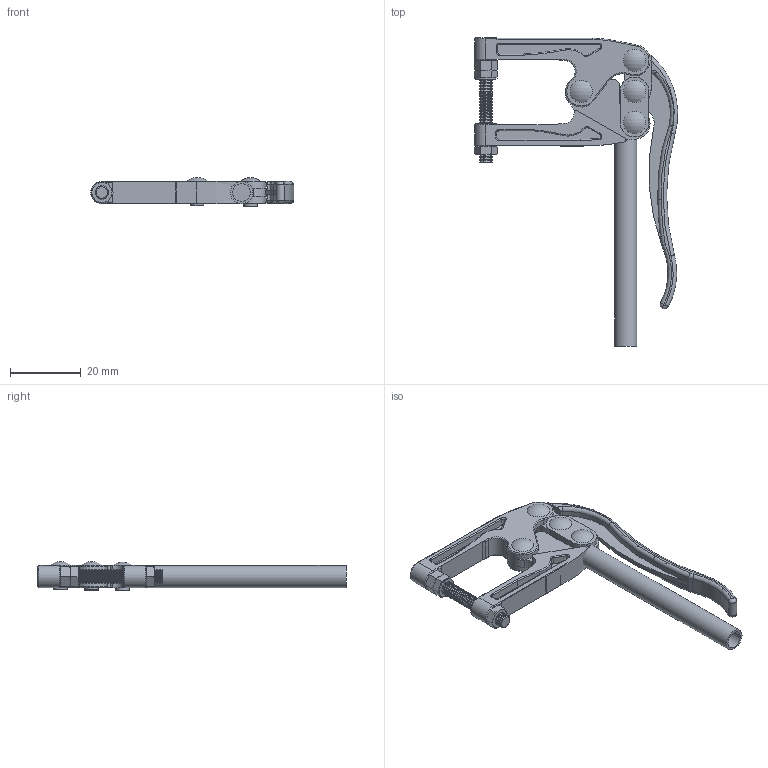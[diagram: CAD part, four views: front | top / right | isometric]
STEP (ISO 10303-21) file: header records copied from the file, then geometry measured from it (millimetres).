
FILE_DESCRIPTION(/* description */ (''),/* implementation_level */ '2;1');
FILE_NAME(/* name */ 'C:\Users\Nick\Desktop\C-1200\3D\C-1200 Open.step',/* time_stamp */ '2016-05-17T10:45:49-04:00',/* author */ ('Nick'),/* organization */ (''),/* preprocessor_version */ 'ST-DEVELOPER v16.1',/* originating_system */ 'AutoCAD Mechanical',/* authorisation */ '');
FILE_SCHEMA (('AUTOMOTIVE_DESIGN { 1 0 10303 214 3 1 1 }'));
Length unit declared in the file: centimetre
Products named in the file (1): Product
Bounding box: 57.28 x 86.88 x 8.07 mm (x, y, z)
Volume: 7148.4 mm3; surface area: 10195.2 mm2
Topology: 14 solids, 14 shells, 495 faces, 1100 edges, 644 vertices
Faces by surface type: cone 174, cylinder 132, plane 125, torus 58, sphere 4, bspline 2
Full cylindrical faces by diameter (mm): 3.203 x2, 3.73 x4, 3.75 x14, 4.95 x1, 5.62 x1, 6.25 x1
Entity records: 13132 total; most frequent: CARTESIAN_POINT 2711, DIRECTION 2331, ORIENTED_EDGE 1876, AXIS2_PLACEMENT_3D 1013, EDGE_CURVE 938, EDGE_LOOP 695, VERTEX_POINT 643, CIRCLE 517
